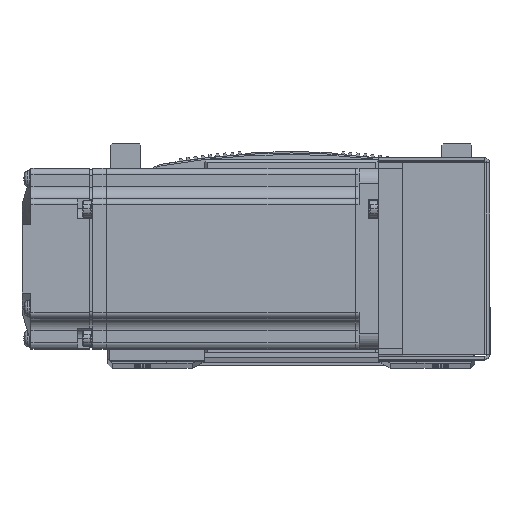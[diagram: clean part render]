
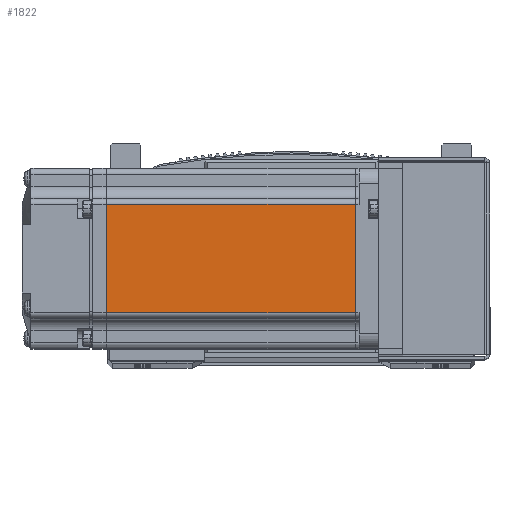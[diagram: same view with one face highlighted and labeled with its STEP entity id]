
A CAD part, top view. The second image highlights one B-rep face of the part: STEP entity #1822.
In plain terms, the highlighted planar face has unit normal (0, 0, 1) as drawn and (0, 1, 0) by its records, which use the part's own axes.
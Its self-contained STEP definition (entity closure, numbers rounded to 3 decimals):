
#1822 = ADVANCED_FACE ( 'NONE', ( #53071 ), #80074, .T. ) ;
#10443 = EDGE_LOOP ( 'NONE', ( #94164, #94138, #94123, #94178 ) ) ;
#34397 = LINE ( 'NONE', #46154, #34437 ) ;
#34399 = LINE ( 'NONE', #46168, #34511 ) ;
#34437 = VECTOR ( 'NONE', #46122, 1000. ) ;
#34485 = VECTOR ( 'NONE', #46208, 1000. ) ;
#34511 = VECTOR ( 'NONE', #46176, 1000. ) ;
#34535 = LINE ( 'NONE', #46226, #34485 ) ;
#35378 = LINE ( 'NONE', #48171, #35434 ) ;
#35434 = VECTOR ( 'NONE', #48170, 1000. ) ;
#46122 = DIRECTION ( 'NONE',  ( -1., 0., 0. ) ) ;
#46154 = CARTESIAN_POINT ( 'NONE',  ( -6.5, 30., -18. ) ) ;
#46168 = CARTESIAN_POINT ( 'NONE',  ( -90.45, 30., 0. ) ) ;
#46176 = DIRECTION ( 'NONE',  ( 0., 0., 1. ) ) ;
#46208 = DIRECTION ( 'NONE',  ( 0., 0., 1. ) ) ;
#46226 = CARTESIAN_POINT ( 'NONE',  ( -7.75, 30., 0. ) ) ;
#48170 = DIRECTION ( 'NONE',  ( 1., 0., 0. ) ) ;
#48171 = CARTESIAN_POINT ( 'NONE',  ( -6.5, 30., 18. ) ) ;
#53071 = FACE_OUTER_BOUND ( 'NONE', #10443, .T. ) ;
#57787 = VERTEX_POINT ( 'NONE', #66132 ) ;
#57791 = VERTEX_POINT ( 'NONE', #66136 ) ;
#58058 = VERTEX_POINT ( 'NONE', #64201 ) ;
#58073 = VERTEX_POINT ( 'NONE', #64207 ) ;
#61786 = EDGE_CURVE ( 'NONE', #57791, #57787, #35378, .T. ) ;
#61911 = EDGE_CURVE ( 'NONE', #58073, #58058, #34397, .T. ) ;
#61932 = EDGE_CURVE ( 'NONE', #58058, #57791, #34399, .T. ) ;
#61975 = EDGE_CURVE ( 'NONE', #58073, #57787, #34535, .T. ) ;
#64201 = CARTESIAN_POINT ( 'NONE',  ( -90.45, 30., -18. ) ) ;
#64207 = CARTESIAN_POINT ( 'NONE',  ( -7.75, 30., -18. ) ) ;
#66132 = CARTESIAN_POINT ( 'NONE',  ( -7.75, 30., 18. ) ) ;
#66136 = CARTESIAN_POINT ( 'NONE',  ( -90.45, 30., 18. ) ) ;
#68668 = AXIS2_PLACEMENT_3D ( 'NONE', #80056, #80059, #80065 ) ;
#80056 = CARTESIAN_POINT ( 'NONE',  ( -6.5, 30., 25. ) ) ;
#80059 = DIRECTION ( 'NONE',  ( 0., 1., 0. ) ) ;
#80065 = DIRECTION ( 'NONE',  ( 0., 0., 1. ) ) ;
#80074 = PLANE ( 'NONE',  #68668 ) ;
#94123 = ORIENTED_EDGE ( 'NONE', *, *, #61932, .T. ) ;
#94138 = ORIENTED_EDGE ( 'NONE', *, *, #61911, .T. ) ;
#94164 = ORIENTED_EDGE ( 'NONE', *, *, #61975, .F. ) ;
#94178 = ORIENTED_EDGE ( 'NONE', *, *, #61786, .T. ) ;
